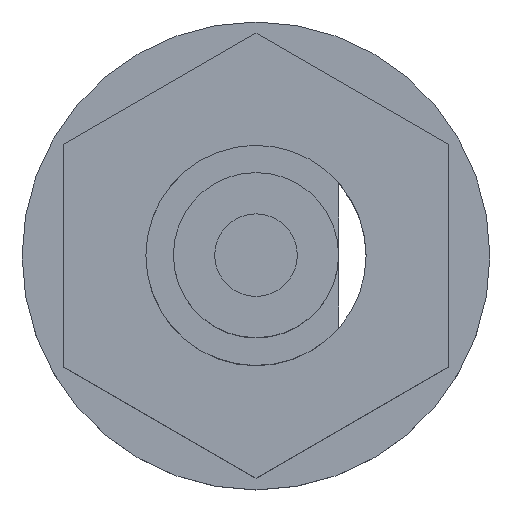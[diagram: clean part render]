
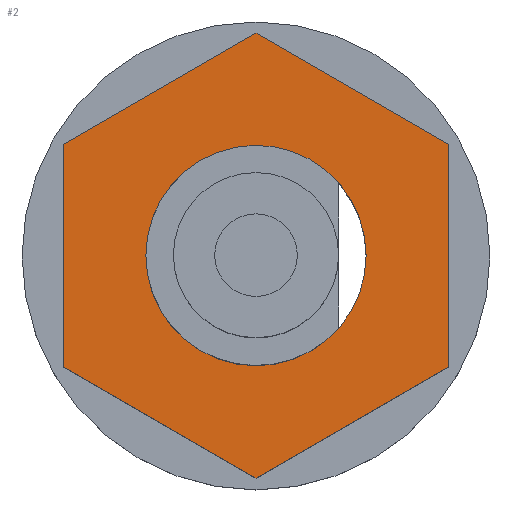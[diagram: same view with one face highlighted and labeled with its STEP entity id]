
A CAD part, top view. The second image highlights one B-rep face of the part: STEP entity #2.
In plain terms, the highlighted planar face has unit normal (0, 0, 1) as drawn and (-1, 0, 0) by its records, which use the part's own axes.
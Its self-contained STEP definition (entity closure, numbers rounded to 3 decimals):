
#1 = VERTEX_POINT ( 'NONE', #396 ) ;
#2 = ADVANCED_FACE ( 'NONE', ( #395, #394 ), #393, .T. ) ;
#3 = VERTEX_POINT ( 'NONE', #388 ) ;
#4 = VERTEX_POINT ( 'NONE', #387 ) ;
#6 = EDGE_CURVE ( 'NONE', #11, #4, #382, .T. ) ;
#8 = EDGE_CURVE ( 'NONE', #3, #1, #378, .T. ) ;
#9 = ORIENTED_EDGE ( 'NONE', *, *, #6, .T. ) ;
#10 = EDGE_CURVE ( 'NONE', #1147, #11, #440, .T. ) ;
#11 = VERTEX_POINT ( 'NONE', #436 ) ;
#13 = ORIENTED_EDGE ( 'NONE', *, *, #10, .T. ) ;
#15 = ORIENTED_EDGE ( 'NONE', *, *, #1148, .T. ) ;
#17 = EDGE_LOOP ( 'NONE', ( #15, #13, #9, #401, #51, #48 ) ) ;
#18 = VERTEX_POINT ( 'NONE', #434 ) ;
#47 = EDGE_CURVE ( 'NONE', #4, #50, #473, .T. ) ;
#48 = ORIENTED_EDGE ( 'NONE', *, *, #49, .T. ) ;
#49 = EDGE_CURVE ( 'NONE', #53, #18, #464, .T. ) ;
#50 = VERTEX_POINT ( 'NONE', #460 ) ;
#51 = ORIENTED_EDGE ( 'NONE', *, *, #52, .T. ) ;
#52 = EDGE_CURVE ( 'NONE', #50, #53, #459, .T. ) ;
#53 = VERTEX_POINT ( 'NONE', #455 ) ;
#55 = EDGE_LOOP ( 'NONE', ( #56, #57 ) ) ;
#56 = ORIENTED_EDGE ( 'NONE', *, *, #8, .F. ) ;
#57 = ORIENTED_EDGE ( 'NONE', *, *, #397, .F. ) ;
#377 = AXIS2_PLACEMENT_3D ( 'NONE', #443, #442, #441 ) ;
#378 = CIRCLE ( 'NONE', #377, 2. ) ;
#379 = DIRECTION ( 'NONE',  ( 0., -1., 0. ) ) ;
#380 = VECTOR ( 'NONE', #379, 1000. ) ;
#381 = CARTESIAN_POINT ( 'NONE',  ( 5., 2.021, -3.5 ) ) ;
#382 = LINE ( 'NONE', #381, #380 ) ;
#387 = CARTESIAN_POINT ( 'NONE',  ( 5., -2.021, -3.5 ) ) ;
#388 = CARTESIAN_POINT ( 'NONE',  ( 5., 2., 0. ) ) ;
#389 = DIRECTION ( 'NONE',  ( 0., -1., 0. ) ) ;
#390 = DIRECTION ( 'NONE',  ( -1., 0., 0. ) ) ;
#391 = CARTESIAN_POINT ( 'NONE',  ( 5., 4.041, 0. ) ) ;
#392 = AXIS2_PLACEMENT_3D ( 'NONE', #391, #390, #389 ) ;
#393 = PLANE ( 'NONE',  #392 ) ;
#394 = FACE_BOUND ( 'NONE', #55, .T. ) ;
#395 = FACE_OUTER_BOUND ( 'NONE', #17, .T. ) ;
#396 = CARTESIAN_POINT ( 'NONE',  ( 5., -2., 0. ) ) ;
#397 = EDGE_CURVE ( 'NONE', #1, #3, #973, .T. ) ;
#401 = ORIENTED_EDGE ( 'NONE', *, *, #47, .T. ) ;
#434 = CARTESIAN_POINT ( 'NONE',  ( 5., 2.021, 3.5 ) ) ;
#436 = CARTESIAN_POINT ( 'NONE',  ( 5., 2.021, -3.5 ) ) ;
#437 = DIRECTION ( 'NONE',  ( 0., -0.5, -0.866 ) ) ;
#438 = VECTOR ( 'NONE', #437, 1000. ) ;
#439 = CARTESIAN_POINT ( 'NONE',  ( 5., 4.041, 0. ) ) ;
#440 = LINE ( 'NONE', #439, #438 ) ;
#441 = DIRECTION ( 'NONE',  ( 0., -1., 0. ) ) ;
#442 = DIRECTION ( 'NONE',  ( -1., 0., 0. ) ) ;
#443 = CARTESIAN_POINT ( 'NONE',  ( 5., 0., 0. ) ) ;
#455 = CARTESIAN_POINT ( 'NONE',  ( 5., -2.021, 3.5 ) ) ;
#456 = DIRECTION ( 'NONE',  ( 0., 0.5, 0.866 ) ) ;
#457 = VECTOR ( 'NONE', #456, 1000. ) ;
#458 = CARTESIAN_POINT ( 'NONE',  ( 5., -4.041, 0. ) ) ;
#459 = LINE ( 'NONE', #458, #457 ) ;
#460 = CARTESIAN_POINT ( 'NONE',  ( 5., -4.041, 0. ) ) ;
#461 = DIRECTION ( 'NONE',  ( 0., 1., 0. ) ) ;
#462 = VECTOR ( 'NONE', #461, 1000. ) ;
#463 = CARTESIAN_POINT ( 'NONE',  ( 5., -2.021, 3.5 ) ) ;
#464 = LINE ( 'NONE', #463, #462 ) ;
#465 = DIRECTION ( 'NONE',  ( 0., -0.5, 0.866 ) ) ;
#466 = VECTOR ( 'NONE', #465, 1000. ) ;
#467 = CARTESIAN_POINT ( 'NONE',  ( 5., -2.021, -3.5 ) ) ;
#473 = LINE ( 'NONE', #467, #466 ) ;
#969 = DIRECTION ( 'NONE',  ( 0., -1., 0. ) ) ;
#970 = DIRECTION ( 'NONE',  ( -1., 0., 0. ) ) ;
#971 = CARTESIAN_POINT ( 'NONE',  ( 5., 0., 0. ) ) ;
#972 = AXIS2_PLACEMENT_3D ( 'NONE', #971, #970, #969 ) ;
#973 = CIRCLE ( 'NONE', #972, 2. ) ;
#1000 = DIRECTION ( 'NONE',  ( 0., 0.5, -0.866 ) ) ;
#1001 = VECTOR ( 'NONE', #1000, 1000. ) ;
#1002 = CARTESIAN_POINT ( 'NONE',  ( 5., 2.021, 3.5 ) ) ;
#1003 = LINE ( 'NONE', #1002, #1001 ) ;
#1004 = CARTESIAN_POINT ( 'NONE',  ( 5., 4.041, 0. ) ) ;
#1147 = VERTEX_POINT ( 'NONE', #1004 ) ;
#1148 = EDGE_CURVE ( 'NONE', #18, #1147, #1003, .T. ) ;
